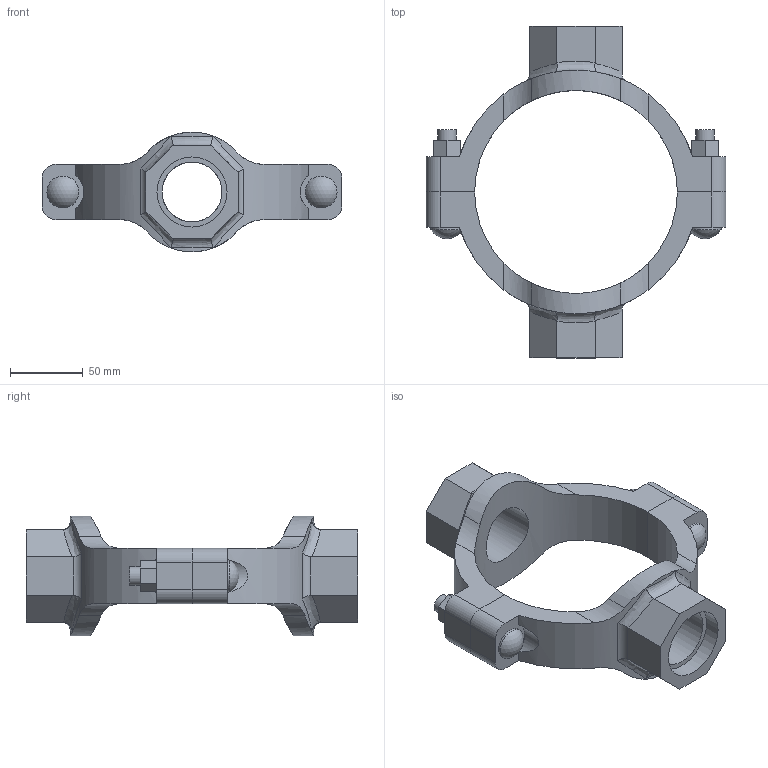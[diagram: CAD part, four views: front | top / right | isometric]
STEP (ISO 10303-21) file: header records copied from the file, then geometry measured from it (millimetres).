
FILE_DESCRIPTION(/* description */ ('VIC MECH-T BRANCH OUTLET CROSS STYLE 920N (THD)','CAx-IF Rec.Pracs.---Representation and Presentation of Product Manufacturing Information (PMI)---4.0---2014-10-13'),/* implementation_level */ '2;1');
FILE_NAME(/* name */ 'C:\Users\Vjadhav\AppData\Roaming\Autodesk\ApplicationPlugins\Back Up\Victaulic_IPS_Mechanical-Cross Outlet_Style 920N (FPT)\Victaulic_IPS_Mechanical-Cross Outlet_05.0 (139.7)x01.5x01.5 (125x40x40).stp',/* time_stamp */ '2020-08-06T18:58:51+05:00',/* author */ ('Vjadhav'),/* organization */ ('Victaulic'),/* preprocessor_version */ 'ST-DEVELOPER v17.2',/* originating_system */ 'Autodesk Inventor 2019',/* authorisation */ '');
FILE_SCHEMA (('AP242_MANAGED_MODEL_BASED_3D_ENGINEERING_MIM_LF { 1 0 10303 442 1 1 4 }'));
Length unit declared in the file: inch
Products named in the file (3): 920NT-05.0 (139.7)x01.5x01.5; 920NT-05.0 (139.7)x01.5; 920NT-05.0 (139.7)x01.5_1
Assembly tree (2 placements, depth 2):
  920NT-05.0 (139.7)x01.5x01.5
    920NT-05.0 (139.7)x01.5
    920NT-05.0 (139.7)x01.5_1
Bounding box: 206.5 x 228.6 x 82.46 mm (x, y, z)
Volume: 483829.4 mm3; surface area: 105138.9 mm2
Topology: 2 solids, 2 shells, 132 faces, 350 edges, 236 vertices
Faces by surface type: plane 68, cylinder 50, bspline 8, torus 4, sphere 2
Full cylindrical faces by diameter (mm): 12.7 x4, 21.982 x2, 41.275 x2, 48.26 x2
Entity records: 5378 total; most frequent: CARTESIAN_POINT 1865, ORIENTED_EDGE 700, DIRECTION 648, EDGE_CURVE 350, VERTEX_POINT 236, AXIS2_PLACEMENT_3D 231, LINE 186, VECTOR 186
